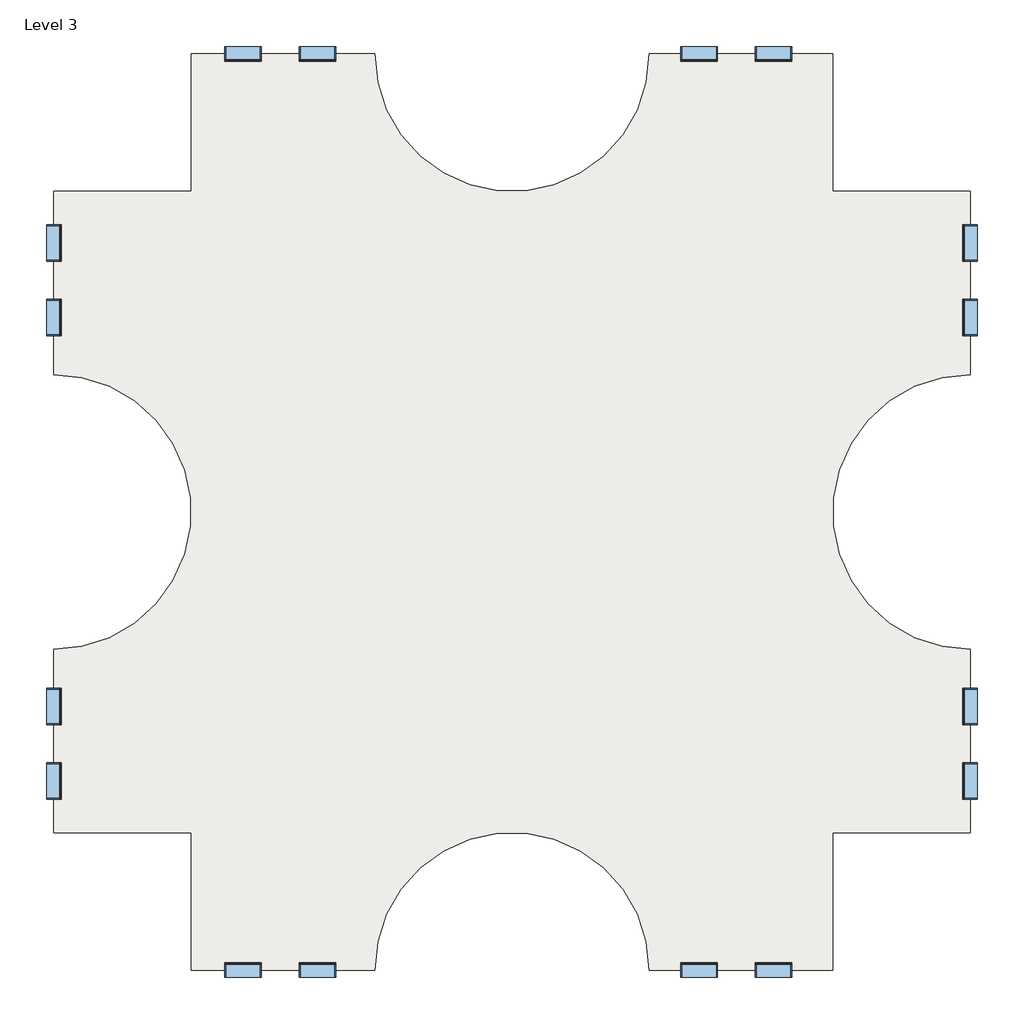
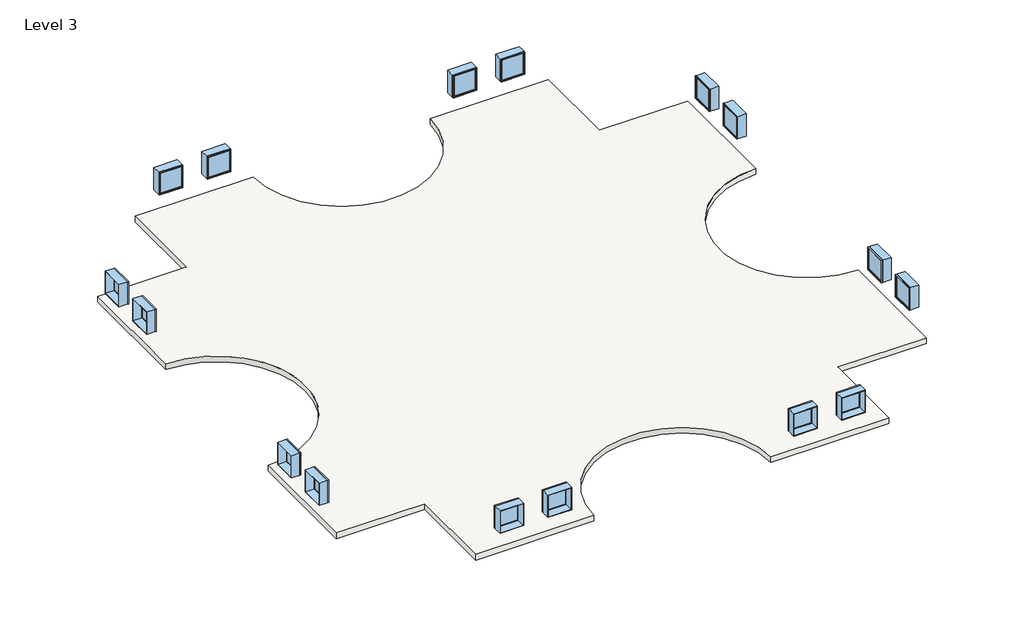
# One storey: 16 windows, 3 slabs.
"""IFC4 building model written with IfcOpenShell, lengths in millimetres."""

from ifc_helpers import new_model, si_unit, point, frame, frame_2d, origin, place, context, project, spatial, polyline, circle_curve, trimmed, segment, composite_curve, outline, extrude, transform, mapped, element, save
from components import window_d0035ecf, window_d434eb62

model = new_model("IFC4")

# Units and contexts
model_context = context("Model", 3, world=origin())
ifc_project = project(units=[si_unit("LENGTHUNIT", "METRE", prefix="MILLI")], contexts=[model_context])

# Site, building, storey
site = spatial("IfcSite", under=ifc_project)
building = spatial("IfcBuilding", under=site)
storey = spatial("IfcBuildingStorey", under=building, Name="Level 3", Elevation=6096.0)

# Slabs
placement = place(None, origin())
element("IfcSlab", 1, ObjectType="Generic - 12\"", at=placement, inside=storey, context=model_context, shape_type="SweptSolid", body=[
    extrude(outline(composite_curve([segment(polyline([(-7150.3629456, 4479.6634547), (-7150.3629456, 9051.6634547), (-1054.3629456, 9051.6634547)]), True, "CONTINUOUS"), segment(trimmed(circle_curve(frame_2d((3517.6370544, 9051.6634547)), 4572.0), [point((-1054.3629456, 9051.6634547))], [point((8089.6370544, 9051.6634547))], True, "CARTESIAN"), True, "CONTINUOUS"), segment(polyline([(8089.6370544, 9051.6634547), (14185.6370544, 9051.6634547), (14185.6370544, 4479.6634547), (18757.6370544, 4479.6634547), (18757.6370544, -1616.3365453)]), True, "CONTINUOUS"), segment(trimmed(circle_curve(frame_2d((18757.6370544, -6188.3365453)), 4572.0), [point((18757.6370544, -1616.3365453))], [point((18757.6370544, -10760.3365453))], True, "CARTESIAN"), True, "CONTINUOUS"), segment(polyline([(18757.6370544, -10760.3365453), (18757.6370544, -16856.3365453), (14185.6370544, -16856.3365453), (14185.6370544, -21428.3365453), (8089.6370544, -21428.3365453)]), True, "CONTINUOUS"), segment(trimmed(circle_curve(frame_2d((3517.6370544, -21428.3365453)), 4572.0), [point((8089.6370544, -21428.3365453))], [point((-1054.3629456, -21428.3365453))], True, "CARTESIAN"), True, "CONTINUOUS"), segment(polyline([(-1054.3629456, -21428.3365453), (-7150.3629456, -21428.3365453), (-7150.3629456, -16856.3365453), (-11722.3629456, -16856.3365453), (-11722.3629456, -10760.3365453)]), True, "CONTINUOUS"), segment(trimmed(circle_curve(frame_2d((-11722.3629456, -6188.3365453)), 4572.0), [point((-11722.3629456, -10760.3365453))], [point((-11722.3629456, -1616.3365453))], True, "CARTESIAN"), True, "CONTINUOUS"), segment(polyline([(-11722.3629456, -1616.3365453), (-11722.3629456, 4479.6634547), (-7150.3629456, 4479.6634547)]), True, "CONTINUOUS")], self_intersect=False)), frame((0.0, 0.0, 5791.2), z_axis=(0.0, 0.0, 1.0), x_axis=(1.0, 0.0, 0.0)), (0.0, 0.0, 1.0), 304.8),
])
element("IfcSlab", 2, ObjectType="Generic - 12\"", at=placement, inside=storey, context=model_context, shape_type="SweptSolid", body=[
    extrude(outline(composite_curve([segment(polyline([(-7150.3629456, 4479.6634547), (-7150.3629456, 9051.6634547), (-1054.3629456, 9051.6634547)]), True, "CONTINUOUS"), segment(trimmed(circle_curve(frame_2d((3517.6370544, 9051.6634547)), 4572.0), [point((-1054.3629456, 9051.6634547))], [point((8089.6370544, 9051.6634547))], True, "CARTESIAN"), True, "CONTINUOUS"), segment(polyline([(8089.6370544, 9051.6634547), (14185.6370544, 9051.6634547), (14185.6370544, 4479.6634547), (18757.6370544, 4479.6634547), (18757.6370544, -1616.3365453)]), True, "CONTINUOUS"), segment(trimmed(circle_curve(frame_2d((18757.6370544, -6188.3365453)), 4572.0), [point((18757.6370544, -1616.3365453))], [point((18757.6370544, -10760.3365453))], True, "CARTESIAN"), True, "CONTINUOUS"), segment(polyline([(18757.6370544, -10760.3365453), (18757.6370544, -16856.3365453), (14185.6370544, -16856.3365453), (14185.6370544, -21428.3365453), (8089.6370544, -21428.3365453)]), True, "CONTINUOUS"), segment(trimmed(circle_curve(frame_2d((3517.6370544, -21428.3365453)), 4572.0), [point((8089.6370544, -21428.3365453))], [point((-1054.3629456, -21428.3365453))], True, "CARTESIAN"), True, "CONTINUOUS"), segment(polyline([(-1054.3629456, -21428.3365453), (-7150.3629456, -21428.3365453), (-7150.3629456, -16856.3365453), (-11722.3629456, -16856.3365453), (-11722.3629456, -10760.3365453)]), True, "CONTINUOUS"), segment(trimmed(circle_curve(frame_2d((-11722.3629456, -6188.3365453)), 4572.0), [point((-11722.3629456, -10760.3365453))], [point((-11722.3629456, -1616.3365453))], True, "CARTESIAN"), True, "CONTINUOUS"), segment(polyline([(-11722.3629456, -1616.3365453), (-11722.3629456, 4479.6634547), (-7150.3629456, 4479.6634547)]), True, "CONTINUOUS")], self_intersect=False)), frame((0.0, 0.0, 5791.2), z_axis=(0.0, 0.0, 1.0), x_axis=(1.0, 0.0, 0.0)), (0.0, 0.0, 1.0), 304.8),
])
element("IfcSlab", 3, ObjectType="Generic - 12\"", at=placement, inside=storey, context=model_context, shape_type="SweptSolid", body=[
    extrude(outline(composite_curve([segment(polyline([(-7150.3629456, 4479.6634547), (-7150.3629456, 9051.6634547), (-1054.3629456, 9051.6634547)]), True, "CONTINUOUS"), segment(trimmed(circle_curve(frame_2d((3517.6370544, 9051.6634547)), 4572.0), [point((-1054.3629456, 9051.6634547))], [point((8089.6370544, 9051.6634547))], True, "CARTESIAN"), True, "CONTINUOUS"), segment(polyline([(8089.6370544, 9051.6634547), (14185.6370544, 9051.6634547), (14185.6370544, 4479.6634547), (18757.6370544, 4479.6634547), (18757.6370544, -1616.3365453)]), True, "CONTINUOUS"), segment(trimmed(circle_curve(frame_2d((18757.6370544, -6188.3365453)), 4572.0), [point((18757.6370544, -1616.3365453))], [point((18757.6370544, -10760.3365453))], True, "CARTESIAN"), True, "CONTINUOUS"), segment(polyline([(18757.6370544, -10760.3365453), (18757.6370544, -16856.3365453), (14185.6370544, -16856.3365453), (14185.6370544, -21428.3365453), (8089.6370544, -21428.3365453)]), True, "CONTINUOUS"), segment(trimmed(circle_curve(frame_2d((3517.6370544, -21428.3365453)), 4572.0), [point((8089.6370544, -21428.3365453))], [point((-1054.3629456, -21428.3365453))], True, "CARTESIAN"), True, "CONTINUOUS"), segment(polyline([(-1054.3629456, -21428.3365453), (-7150.3629456, -21428.3365453), (-7150.3629456, -16856.3365453), (-11722.3629456, -16856.3365453), (-11722.3629456, -10760.3365453)]), True, "CONTINUOUS"), segment(trimmed(circle_curve(frame_2d((-11722.3629456, -6188.3365453)), 4572.0), [point((-11722.3629456, -10760.3365453))], [point((-11722.3629456, -1616.3365453))], True, "CARTESIAN"), True, "CONTINUOUS"), segment(polyline([(-11722.3629456, -1616.3365453), (-11722.3629456, 4479.6634547), (-7150.3629456, 4479.6634547)]), True, "CONTINUOUS")], self_intersect=False)), frame((0.0, 0.0, 5791.2), z_axis=(0.0, 0.0, 1.0), x_axis=(1.0, 0.0, 0.0)), (0.0, 0.0, 1.0), 304.8),
])

# Windows
window_shape = window_d0035ecf(model_context)
element("IfcWindow", 4, ObjectType="Fixed : 48\" x 48\"", at=placement, inside=storey, context=model_context, shape_type="MappedRepresentation", body=[
    mapped(window_shape, transform((-11719.1879456, 247.3884547, 6096.0), x_axis=(0.0, -1.0, 0.0), y_axis=(1.0, 0.0, 0.0), z_axis=(0.0, 0.0, 1.0))),
])
element("IfcWindow", 5, ObjectType="Fixed : 48\" x 48\"", at=placement, inside=storey, context=model_context, shape_type="MappedRepresentation", body=[
    mapped(window_shape, transform((-5469.1993281, 9048.4884547, 6096.0), x_axis=(-1.0, 0.0, 0.0), y_axis=(0.0, -1.0, 0.0), z_axis=(0.0, 0.0, 1.0))),
])
element("IfcWindow", 6, ObjectType="Fixed : 48\" x 48\"", at=placement, inside=storey, context=model_context, shape_type="MappedRepresentation", body=[
    mapped(window_shape, transform((-11719.1879456, -15175.1729277, 6096.0), x_axis=(0.0, -1.0, 0.0), y_axis=(1.0, 0.0, 0.0), z_axis=(0.0, 0.0, 1.0))),
])
element("IfcWindow", 7, ObjectType="Fixed : 48\" x 48\"", at=placement, inside=storey, context=model_context, shape_type="MappedRepresentation", body=[
    mapped(window_shape, transform((-2918.0879456, -21425.1615453, 6096.0), x_axis=(1.0, 0.0, 0.0), y_axis=(0.0, 1.0, 0.0), z_axis=(0.0, 0.0, 1.0))),
])
element("IfcWindow", 8, ObjectType="Fixed : 48\" x 48\"", at=placement, inside=storey, context=model_context, shape_type="MappedRepresentation", body=[
    mapped(window_shape, transform((18754.4620544, 2798.4998372, 6096.0), x_axis=(0.0, 1.0, 0.0), y_axis=(-1.0, 0.0, 0.0), z_axis=(0.0, 0.0, 1.0))),
])
element("IfcWindow", 9, ObjectType="Fixed : 48\" x 48\"", at=placement, inside=storey, context=model_context, shape_type="MappedRepresentation", body=[
    mapped(window_shape, transform((9705.7120544, 9048.4884547, 6096.0), x_axis=(-1.0, 0.0, 0.0), y_axis=(0.0, -1.0, 0.0), z_axis=(0.0, 0.0, 1.0))),
])
element("IfcWindow", 10, ObjectType="Fixed : 48\" x 48\"", at=placement, inside=storey, context=model_context, shape_type="MappedRepresentation", body=[
    mapped(window_shape, transform((18754.4620544, -12624.0615453, 6096.0), x_axis=(0.0, 1.0, 0.0), y_axis=(-1.0, 0.0, 0.0), z_axis=(0.0, 0.0, 1.0))),
])
element("IfcWindow", 11, ObjectType="Fixed : 48\" x 48\"", at=placement, inside=storey, context=model_context, shape_type="MappedRepresentation", body=[
    mapped(window_shape, transform((12256.8234368, -21425.1615453, 6096.0), x_axis=(1.0, 0.0, 0.0), y_axis=(0.0, 1.0, 0.0), z_axis=(0.0, 0.0, 1.0))),
])
window_2_shape = window_d434eb62(model_context)
element("IfcWindow", 12, ObjectType="Fixed : 48\" x 48\"", at=placement, inside=storey, context=model_context, shape_type="MappedRepresentation", body=[
    mapped(window_2_shape, transform((-11719.1879456, 2798.4998372, 6096.0), x_axis=(0.0, 1.0, 0.0), y_axis=(-1.0, 0.0, 0.0), z_axis=(0.0, 0.0, 1.0))),
])
element("IfcWindow", 13, ObjectType="Fixed : 48\" x 48\"", at=placement, inside=storey, context=model_context, shape_type="MappedRepresentation", body=[
    mapped(window_2_shape, transform((-2918.0879456, 9048.4884547, 6096.0), x_axis=(1.0, 0.0, 0.0), y_axis=(0.0, 1.0, 0.0), z_axis=(0.0, 0.0, 1.0))),
])
element("IfcWindow", 14, ObjectType="Fixed : 48\" x 48\"", at=placement, inside=storey, context=model_context, shape_type="MappedRepresentation", body=[
    mapped(window_2_shape, transform((-11719.1879456, -12624.0615453, 6096.0), x_axis=(0.0, 1.0, 0.0), y_axis=(-1.0, 0.0, 0.0), z_axis=(0.0, 0.0, 1.0))),
])
element("IfcWindow", 15, ObjectType="Fixed : 48\" x 48\"", at=placement, inside=storey, context=model_context, shape_type="MappedRepresentation", body=[
    mapped(window_2_shape, transform((-5469.1993281, -21425.1615453, 6096.0), x_axis=(-1.0, 0.0, 0.0), y_axis=(0.0, -1.0, 0.0), z_axis=(0.0, 0.0, 1.0))),
])
element("IfcWindow", 16, ObjectType="Fixed : 48\" x 48\"", at=placement, inside=storey, context=model_context, shape_type="MappedRepresentation", body=[
    mapped(window_2_shape, transform((18754.4620544, 247.3884547, 6096.0), x_axis=(0.0, -1.0, 0.0), y_axis=(1.0, 0.0, 0.0), z_axis=(0.0, 0.0, 1.0))),
])
element("IfcWindow", 17, ObjectType="Fixed : 48\" x 48\"", at=placement, inside=storey, context=model_context, shape_type="MappedRepresentation", body=[
    mapped(window_2_shape, transform((12256.8234368, 9048.4884547, 6096.0), x_axis=(1.0, 0.0, 0.0), y_axis=(0.0, 1.0, 0.0), z_axis=(0.0, 0.0, 1.0))),
])
element("IfcWindow", 18, ObjectType="Fixed : 48\" x 48\"", at=placement, inside=storey, context=model_context, shape_type="MappedRepresentation", body=[
    mapped(window_2_shape, transform((18754.4620544, -15175.1729277, 6096.0), x_axis=(0.0, -1.0, 0.0), y_axis=(1.0, 0.0, 0.0), z_axis=(0.0, 0.0, 1.0))),
])
element("IfcWindow", 19, ObjectType="Fixed : 48\" x 48\"", at=placement, inside=storey, context=model_context, shape_type="MappedRepresentation", body=[
    mapped(window_2_shape, transform((9705.7120544, -21425.1615453, 6096.0), x_axis=(-1.0, 0.0, 0.0), y_axis=(0.0, -1.0, 0.0), z_axis=(0.0, 0.0, 1.0))),
])

save(model, "model.ifc")
